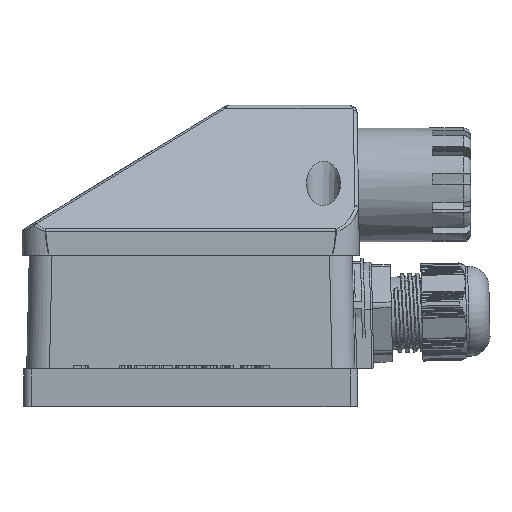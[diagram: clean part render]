
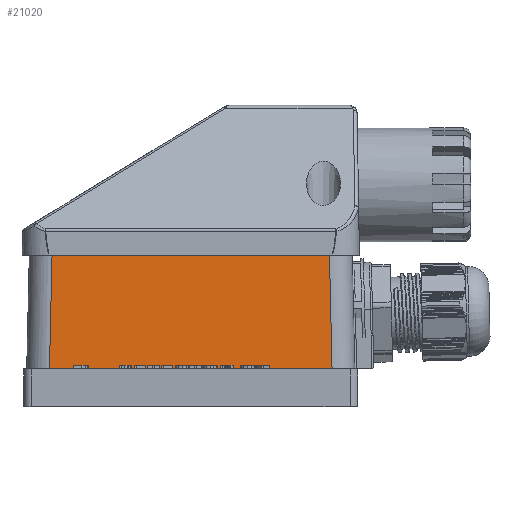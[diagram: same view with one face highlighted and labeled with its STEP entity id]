
A CAD part, left-side view. The second image highlights one B-rep face of the part: STEP entity #21020.
In plain terms, the highlighted planar face has unit normal (-1, 0, 0.023) as drawn and (-1, 0.023, 0) by its records, which use the part's own axes.
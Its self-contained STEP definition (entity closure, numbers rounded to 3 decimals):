
#440=PLANE('',#22365);
#1090=LINE('',#29548,#2925);
#1091=LINE('',#29550,#2926);
#1092=LINE('',#29552,#2927);
#1093=LINE('',#29553,#2928);
#2925=VECTOR('',#24207,1000.);
#2926=VECTOR('',#24208,1000.);
#2927=VECTOR('',#24209,1000.);
#2928=VECTOR('',#24210,1000.);
#5907=FACE_OUTER_BOUND('',#7128,.T.);
#7128=EDGE_LOOP('',(#14627,#14628,#14629,#14630));
#9024=VERTEX_POINT('',#29044);
#9177=VERTEX_POINT('',#29547);
#9178=VERTEX_POINT('',#29549);
#9179=VERTEX_POINT('',#29551);
#11326=EDGE_CURVE('',#9177,#9024,#1090,.T.);
#11327=EDGE_CURVE('',#9024,#9178,#1091,.T.);
#11328=EDGE_CURVE('',#9178,#9179,#1092,.T.);
#11329=EDGE_CURVE('',#9179,#9177,#1093,.T.);
#14627=ORIENTED_EDGE('',*,*,#11326,.T.);
#14628=ORIENTED_EDGE('',*,*,#11327,.T.);
#14629=ORIENTED_EDGE('',*,*,#11328,.T.);
#14630=ORIENTED_EDGE('',*,*,#11329,.T.);
#21020=ADVANCED_FACE('',(#5907),#440,.T.);
#22365=AXIS2_PLACEMENT_3D('',#29546,#24205,#24206);
#24205=DIRECTION('center_axis',(-1.,0.023,0.));
#24206=DIRECTION('ref_axis',(-0.023,-1.,0.));
#24207=DIRECTION('',(0.023,0.999,-0.023));
#24208=DIRECTION('',(0.,0.,-1.));
#24209=DIRECTION('',(-0.023,-0.999,-0.023));
#24210=DIRECTION('',(0.,0.,1.));
#29044=CARTESIAN_POINT('',(0.692,30.511,-6.691));
#29546=CARTESIAN_POINT('Origin',(0.,0.,-86.5));
#29547=CARTESIAN_POINT('',(0.,0.,-5.998));
#29548=CARTESIAN_POINT('',(0.041,1.825,-6.04));
#29549=CARTESIAN_POINT('',(0.692,30.511,-79.809));
#29550=CARTESIAN_POINT('',(0.692,30.511,-79.798));
#29551=CARTESIAN_POINT('',(0.,0.,-80.502));
#29552=CARTESIAN_POINT('',(-0.003,-0.136,-80.505));
#29553=CARTESIAN_POINT('',(0.,0.,-86.5));
